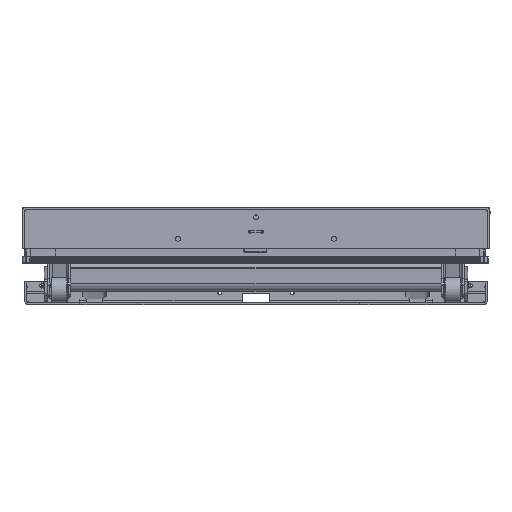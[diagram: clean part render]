
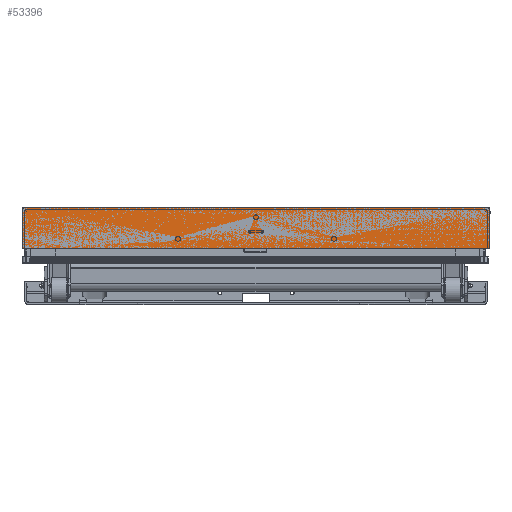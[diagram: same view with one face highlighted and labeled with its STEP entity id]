
A CAD part, front view. The second image highlights one B-rep face of the part: STEP entity #53396.
In plain terms, the highlighted planar face has unit normal (0, -1, 0) as drawn and (-1, 0, 0) by its records, which use the part's own axes.
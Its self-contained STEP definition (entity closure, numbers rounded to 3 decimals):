
#4236=PLANE('',#58179);
#8861=LINE('',#96634,#13491);
#8863=LINE('',#96638,#13493);
#8864=LINE('',#96640,#13494);
#8865=LINE('',#96641,#13495);
#13491=VECTOR('',#72344,106.);
#13493=VECTOR('',#72348,1200.);
#13494=VECTOR('',#72349,106.);
#13495=VECTOR('',#72350,1200.);
#16762=FACE_OUTER_BOUND('',#20028,.T.);
#20028=EDGE_LOOP('',(#49634,#49635,#49636,#49637));
#27191=VERTEX_POINT('',#96631);
#27192=VERTEX_POINT('',#96633);
#27193=VERTEX_POINT('',#96637);
#27194=VERTEX_POINT('',#96639);
#34669=EDGE_CURVE('',#27191,#27192,#8861,.T.);
#34671=EDGE_CURVE('',#27191,#27193,#8863,.T.);
#34672=EDGE_CURVE('',#27194,#27193,#8864,.T.);
#34673=EDGE_CURVE('',#27194,#27192,#8865,.T.);
#49634=ORIENTED_EDGE('',*,*,#34671,.T.);
#49635=ORIENTED_EDGE('',*,*,#34672,.F.);
#49636=ORIENTED_EDGE('',*,*,#34673,.T.);
#49637=ORIENTED_EDGE('',*,*,#34669,.F.);
#53396=ADVANCED_FACE('',(#16762),#4236,.T.);
#58179=AXIS2_PLACEMENT_3D('',#96636,#72346,#72347);
#72344=DIRECTION('',(0.,0.,-1.));
#72346=DIRECTION('center_axis',(-1.,0.,0.));
#72347=DIRECTION('ref_axis',(0.,0.,1.));
#72348=DIRECTION('',(0.,1.,0.));
#72349=DIRECTION('',(0.,0.,1.));
#72350=DIRECTION('',(0.,-1.,0.));
#96631=CARTESIAN_POINT('',(-1100.,-600.,53.));
#96633=CARTESIAN_POINT('',(-1100.,-600.,-53.));
#96634=CARTESIAN_POINT('',(-1100.,-600.,0.));
#96636=CARTESIAN_POINT('Origin',(-1100.,-600.,0.));
#96637=CARTESIAN_POINT('',(-1100.,600.,53.));
#96638=CARTESIAN_POINT('',(-1100.,-600.,53.));
#96639=CARTESIAN_POINT('',(-1100.,600.,-53.));
#96640=CARTESIAN_POINT('',(-1100.,600.,0.));
#96641=CARTESIAN_POINT('',(-1100.,-600.,-53.));
